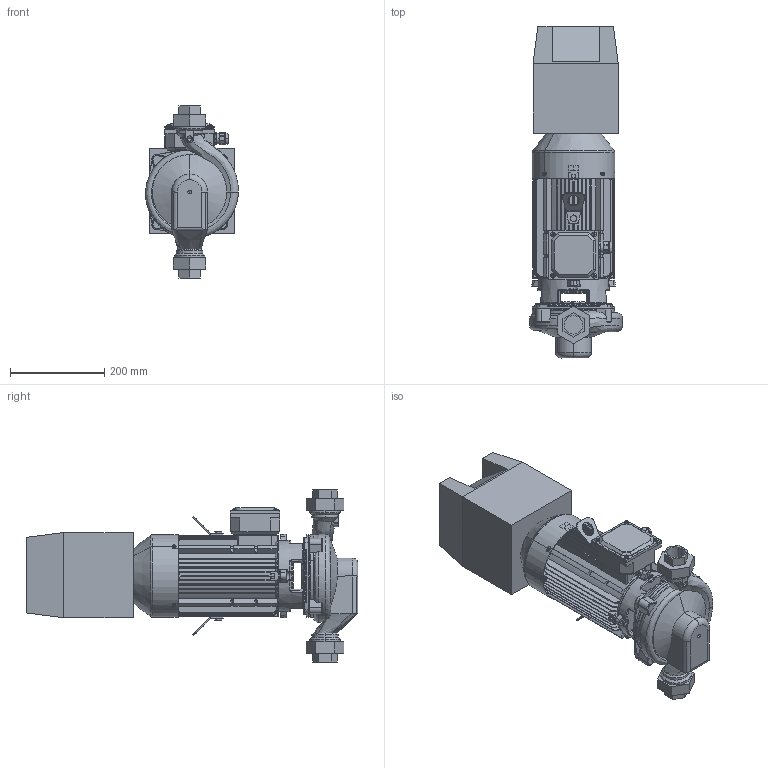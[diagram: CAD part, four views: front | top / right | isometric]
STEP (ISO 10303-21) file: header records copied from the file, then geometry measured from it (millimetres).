
FILE_DESCRIPTION(('STEP AP214'),'1');
FILE_NAME('export.stp','2018-08-08T12:05:24',(' '),(' '),'Spatial InterOp 3D',' ',' ');
FILE_SCHEMA(('AUTOMOTIVE_DESIGN { 1 0 10303 214 1 1 1 1 }'));
Length unit declared in the file: millimetre
Products named in the file (24): W_AE332NC150_KP90; V_TLAEAP3233L40A; V_PPAE33; 160035; 160008; V_MKP90-1_N13; 160141; 160137; 160138; 160139; 160140; Koura_Ale_M5; Plug_Blind_M20; Sealing_Plug_M20; DIN_7985-M5X8; DIN_7985-M5X12; 480037; 480036___; 480039; 480038___; 160135; 160134; DIN_EN_24017_-_M8_16-Stainless_S; NC_Size1
Assembly tree (28 placements, depth 4):
  W_AE332NC150_KP90
    V_TLAEAP3233L40A
    V_PPAE33
    V_MKP90-1_N13
      160035
        160008
      160141
        160137
        160138
        160139
        160140
        Koura_Ale_M5
        Plug_Blind_M20
        Sealing_Plug_M20
        DIN_7985-M5X8
        DIN_7985-M5X12  x4
      480037
        480036___
      480039
        480038___
      160135
      160134  x2
      DIN_EN_24017_-_M8_16-Stainless_S  x2
    NC_Size1
Bounding box: 197.61 x 706.01 x 366 mm (x, y, z)
Volume: 10652956.7 mm3; surface area: 1338914.1 mm2
Topology: 23 solids, 23 shells, 2671 faces, 7037 edges, 4436 vertices
Faces by surface type: plane 1108, cylinder 749, torus 315, bspline 302, cone 177, sphere 20
Entity records: 100737 total; most frequent: CARTESIAN_POINT 36047, ORIENTED_EDGE 13418, DIRECTION 12215, EDGE_CURVE 6709, AXIS2_PLACEMENT_3D 4623, VERTEX_POINT 4258, LINE 2969, VECTOR 2969
